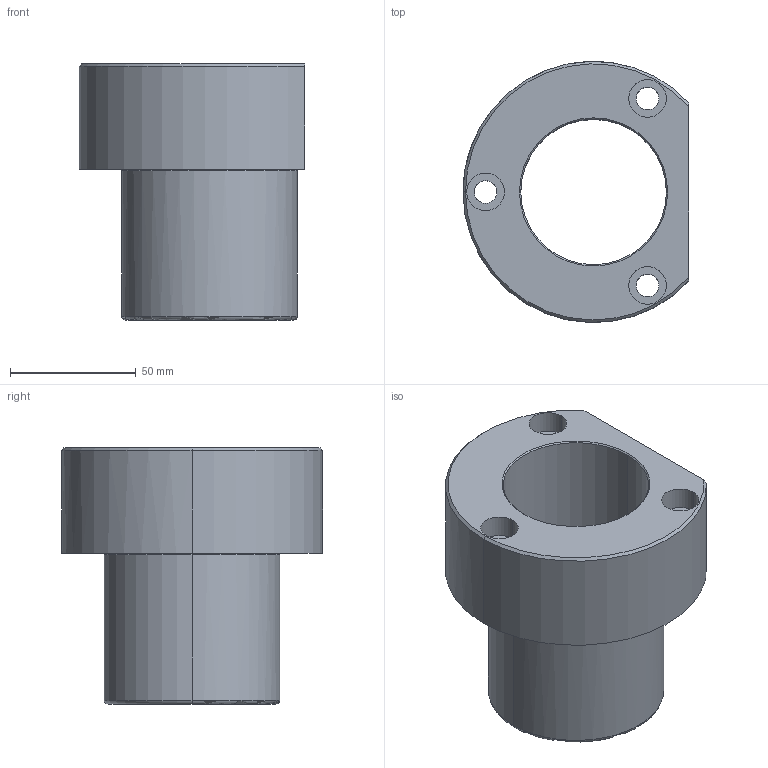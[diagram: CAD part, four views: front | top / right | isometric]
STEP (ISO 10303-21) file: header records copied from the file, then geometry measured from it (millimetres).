
FILE_DESCRIPTION(('CATIA V5 STEP Exchange'),'2;1');
FILE_NAME('C:\Users\Utente\Desktop\IO LAVORO\3D X SITO CF\X SITO\737\737-50.stp','2021-01-17T16:59:56+00:00',('none'),('none'),'CATIA Version 5 Release 20 GA (IN-10)','CATIA V5 STEP AP203','none');
FILE_SCHEMA(('CONFIG_CONTROL_DESIGN'));
Length unit declared in the file: millimetre
Products named in the file (1): 737-50
Bounding box: 90 x 103.95 x 102 mm (x, y, z)
Volume: 277977.9 mm3; surface area: 59181.1 mm2
Topology: 1 solids, 1 shells, 37 faces, 82 edges, 51 vertices
Faces by surface type: cylinder 18, plane 7, cone 6, torus 6
Entity records: 1250 total; most frequent: CARTESIAN_POINT 399, ORIENTED_EDGE 164, DIRECTION 144, AXIS2_PLACEMENT_3D 82, EDGE_CURVE 82, VERTEX_POINT 51, EDGE_LOOP 49, CIRCLE 44
